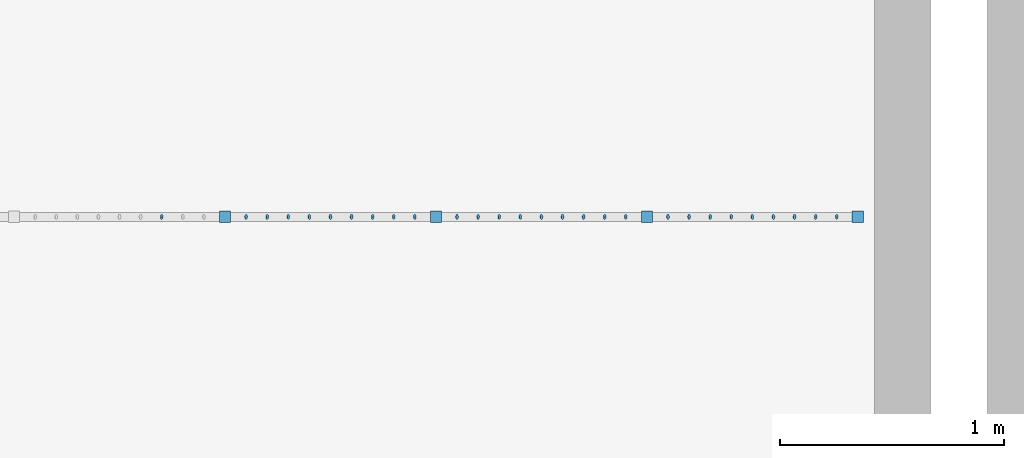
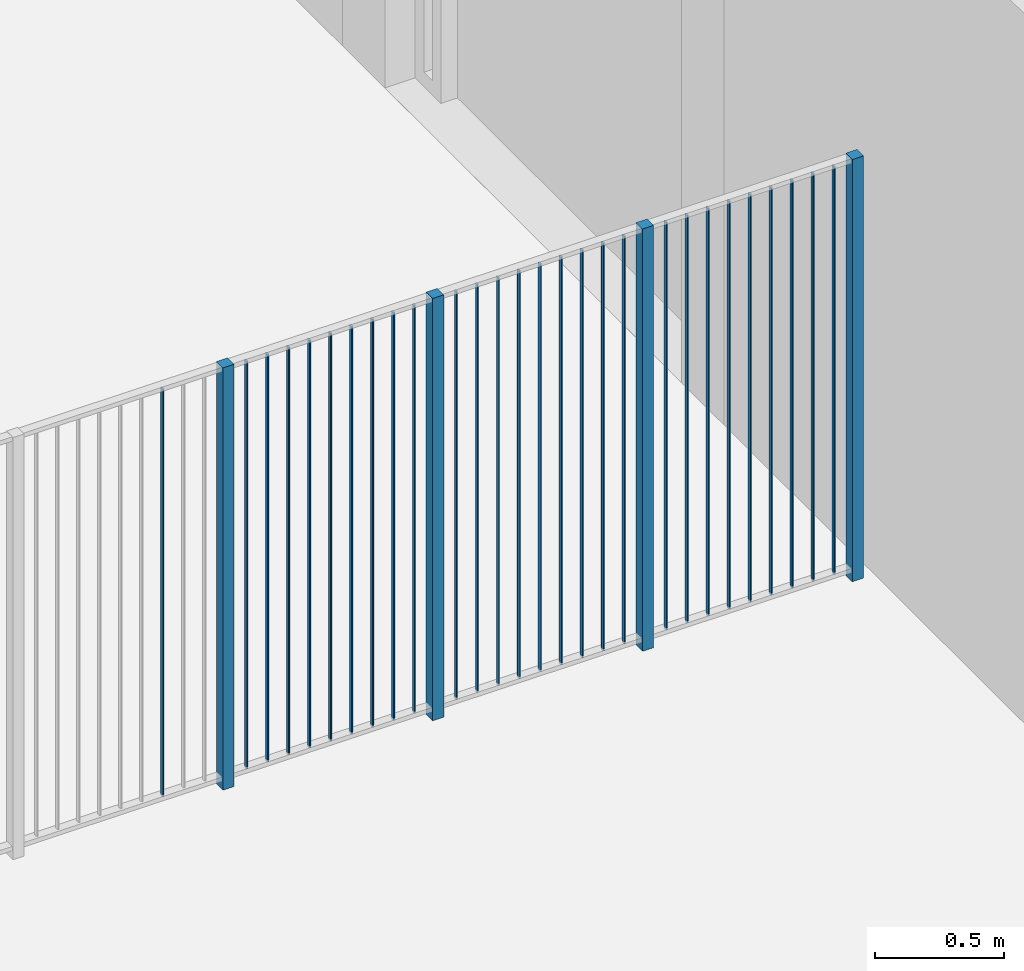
# One storey, part 3 of 135: 32 members, 1 element without a shape of its own.
"""IFC2X3 building model written with IfcOpenShell, lengths in millimetres."""

from ifc_helpers import new_model, entity, si_unit, converted_unit, derived_unit, money_unit, direction, frame, origin_with_axes, place, context, subcontext, project, spatial, faceted_brep, source, transform, mapped, material, type_object, type_shapes, element, aggregate, save


model = new_model("IFC2X3")

# Units and contexts
model_context = context("Model", 3, precision=0.01, world=origin_with_axes(), true_north=direction((0.0, 1.0)))
body_context = subcontext(model_context, "Body", "Model", "MODEL_VIEW")
ifc_project = project(units=[si_unit("LENGTHUNIT", "METRE", prefix="MILLI"), si_unit("AREAUNIT", "SQUARE_METRE"), si_unit("VOLUMEUNIT", "CUBIC_METRE"), converted_unit("PLANEANGLEUNIT", "DEGREE", entity("IfcPlaneAngleMeasure", 0.0174532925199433), si_unit("PLANEANGLEUNIT", "RADIAN"), dimensions=[0, 0, 0, 0, 0, 0, 0]), money_unit("EUR"), converted_unit("TIMEUNIT", "Year", entity("IfcTimeMeasure", 31557600.0), si_unit("TIMEUNIT", "SECOND"), dimensions=[0, 0, 1, 0, 0, 0, 0]), si_unit("MASSUNIT", "GRAM", prefix="KILO"), si_unit("THERMODYNAMICTEMPERATUREUNIT", "DEGREE_CELSIUS"), si_unit("LUMINOUSINTENSITYUNIT", "LUMEN"), si_unit("ENERGYUNIT", "JOULE", prefix="MEGA"), derived_unit("THERMALCONDUCTANCEUNIT", [(si_unit("POWERUNIT", "WATT"), 1), (si_unit("LENGTHUNIT", "METRE"), -1), (si_unit("THERMODYNAMICTEMPERATUREUNIT", "KELVIN"), -1)]), derived_unit("SPECIFICHEATCAPACITYUNIT", [(si_unit("ENERGYUNIT", "JOULE"), 1), (si_unit("MASSUNIT", "GRAM", prefix="KILO"), -1), (si_unit("THERMODYNAMICTEMPERATUREUNIT", "KELVIN"), -1)]), derived_unit("MASSDENSITYUNIT", [(si_unit("MASSUNIT", "GRAM", prefix="KILO"), 1), (si_unit("VOLUMEUNIT", "CUBIC_METRE"), -1)])], contexts=[model_context])

# Site, building, storey
site_placement = place(None, origin_with_axes())
site = spatial("IfcSite", under=ifc_project, at=site_placement, Name="Site", CompositionType="ELEMENT")
building_placement = place(site_placement, origin_with_axes())
building = spatial("IfcBuilding", under=site, at=building_placement, Name="Naam gebouw", CompositionType="ELEMENT")
storey_placement = place(building_placement, origin_with_axes())
storey = spatial("IfcBuildingStorey", under=building, at=storey_placement, Name="Begane grond N", CompositionType="ELEMENT", Elevation=0.0)

# Railing, members
railing_type = type_object("IfcRailingType", Name="Railing Type", PredefinedType="NOTDEFINED")
railing_placement = place(storey_placement, frame((-9250.67106541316, 12765.57502437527, 0.0), z_axis=(0.0, 0.0, 1.0), x_axis=(1.0, 0.0, 0.0)))
railing = element("IfcRailing", 1, at=railing_placement, inside=storey, type_object=railing_type, Name="_Reling-x", PredefinedType="NOTDEFINED")
ifc_material = material(Name="Metaal - Staal C")
member_type_1 = type_object("IfcMemberType", Name="IfcMember", PredefinedType="POST")
shared_shape_1 = source(origin_with_axes(), body_context, "Body", "Brep", [
    faceted_brep([(25.0, 25.0, 0.0), (-25.0, 25.0, 0.0), (-25.00000000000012, 25.0, 2000.0), (24.99999999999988, 25.0, 2000.0), (25.0, -25.0, 0.0), (-25.0, -25.0, 0.0), (-25.00000000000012, -25.0, 2000.0), (24.99999999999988, -25.0, 2000.0)], [[[0, 1, 2, 3]], [[0, 4, 5, 1]], [[1, 5, 6, 2]], [[3, 2, 6, 7]], [[4, 0, 3, 7]], [[5, 4, 7, 6]]]),
])
member_1_placement = place(railing_placement, frame((7575.671066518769, -25.00000000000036, 0.0), z_axis=(0.0, 0.0, 1.0), x_axis=(1.0, 0.0, 0.0)))
member_1 = element("IfcMember", 2, at=member_1_placement, type_object=member_type_1, material=ifc_material, Name="_Hoofdbaluster-x", ObjectType="POST", context=body_context, shape_type="MappedRepresentation", body=[
    mapped(shared_shape_1, transform((0.0, 0.0, 0.0), x_axis=(0.0, -1.0, 0.0), y_axis=(1.0, 0.0, 0.0), z_axis=(0.0, 0.0, 1.0))),
])
member_type_2 = type_object("IfcMemberType", Name="IfcMember", PredefinedType="MEMBER")
shared_shape_2 = source(origin_with_axes(), body_context, "Body", "Brep", [
    faceted_brep([(0.0, -5.0, 0.0), (1.736481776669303, -4.92403876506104, 0.0), (1.736481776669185, -4.92403876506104, 1930.0), (0.0, -5.0, 1930.0), (-1.736481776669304, -4.92403876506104, 0.0), (-3.420201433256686, -4.698463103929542, 0.0), (-5.000000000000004, -4.330127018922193, 0.0), (-6.427876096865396, -3.830222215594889, 0.0), (-7.660444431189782, -3.213938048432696, 0.0), (-8.660254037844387, -2.5, 0.0), (-9.396926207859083, -1.710100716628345, 0.0), (-9.848077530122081, -0.86824088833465, 0.0), (-10.0, 0.0, 0.0), (-9.84807753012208, 0.8682408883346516, 0.0), (-9.396926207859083, 1.710100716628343, 0.0), (-8.660254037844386, 2.500000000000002, 0.0), (-7.660444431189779, 3.213938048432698, 0.0), (-6.427876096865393, 3.83022221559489, 0.0), (-5.000000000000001, 4.330127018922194, 0.0), (-3.420201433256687, 4.698463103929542, 0.0), (-1.736481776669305, 4.92403876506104, 0.0), (0.0, 5.0, 0.0), (1.736481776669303, 4.92403876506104, 0.0), (3.420201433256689, 4.698463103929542, 0.0), (4.999999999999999, 4.330127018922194, 0.0), (6.427876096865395, 3.83022221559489, 0.0), (7.660444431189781, 3.213938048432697, 0.0), (8.660254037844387, 2.499999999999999, 0.0), (9.396926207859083, 1.710100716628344, 0.0), (9.84807753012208, 0.8682408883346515, 0.0), (10.0, 0.0, 0.0), (9.84807753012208, -0.8682408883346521, 0.0), (9.396926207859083, -1.710100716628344, 0.0), (8.660254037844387, -2.5, 0.0), (7.660444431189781, -3.213938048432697, 0.0), (6.427876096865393, -3.83022221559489, 0.0), (4.999999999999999, -4.330127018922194, 0.0), (3.420201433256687, -4.698463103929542, 0.0), (3.420201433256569, -4.698463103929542, 1930.0), (4.999999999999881, -4.330127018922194, 1930.0), (6.427876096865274, -3.83022221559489, 1930.0), (7.660444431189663, -3.213938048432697, 1930.0), (8.660254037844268, -2.5, 1930.0), (9.396926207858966, -1.710100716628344, 1930.0), (9.848077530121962, -0.8682408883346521, 1930.0), (9.999999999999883, 0.0, 1930.0), (9.848077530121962, 0.8682408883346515, 1930.0), (9.396926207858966, 1.710100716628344, 1930.0), (8.660254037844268, 2.499999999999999, 1930.0), (7.660444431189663, 3.213938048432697, 1930.0), (6.427876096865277, 3.83022221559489, 1930.0), (4.999999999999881, 4.330127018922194, 1930.0), (3.42020143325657, 4.698463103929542, 1930.0), (1.736481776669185, 4.92403876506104, 1930.0), (0.0, 5.0, 1930.0), (-1.736481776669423, 4.92403876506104, 1930.0), (-3.420201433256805, 4.698463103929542, 1930.0), (-5.000000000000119, 4.330127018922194, 1930.0), (-6.427876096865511, 3.83022221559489, 1930.0), (-7.660444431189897, 3.213938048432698, 1930.0), (-8.660254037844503, 2.500000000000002, 1930.0), (-9.396926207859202, 1.710100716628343, 1930.0), (-9.848077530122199, 0.8682408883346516, 1930.0), (-10.00000000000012, 0.0, 1930.0), (-9.8480775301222, -0.86824088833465, 1930.0), (-9.396926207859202, -1.710100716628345, 1930.0), (-8.660254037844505, -2.5, 1930.0), (-7.6604444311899, -3.213938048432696, 1930.0), (-6.427876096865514, -3.830222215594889, 1930.0), (-5.000000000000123, -4.330127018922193, 1930.0), (-3.420201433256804, -4.698463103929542, 1930.0), (-1.736481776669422, -4.92403876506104, 1930.0)], [[[0, 1, 2, 3]], [[0, 4, 5, 6, 7, 8, 9, 10, 11, 12, 13, 14, 15, 16, 17, 18, 19, 20, 21, 22, 23, 24, 25, 26, 27, 28, 29, 30, 31, 32, 33, 34, 35, 36, 37, 1]], [[1, 37, 38, 2]], [[3, 2, 38, 39, 40, 41, 42, 43, 44, 45, 46, 47, 48, 49, 50, 51, 52, 53, 54, 55, 56, 57, 58, 59, 60, 61, 62, 63, 64, 65, 66, 67, 68, 69, 70, 71]], [[4, 0, 3, 71]], [[5, 4, 71, 70]], [[6, 5, 70, 69]], [[7, 6, 69, 68]], [[8, 7, 68, 67]], [[9, 8, 67, 66]], [[10, 9, 66, 65]], [[11, 10, 65, 64]], [[12, 11, 64, 63]], [[13, 12, 63, 62]], [[14, 13, 62, 61]], [[15, 14, 61, 60]], [[16, 15, 60, 59]], [[17, 16, 59, 58]], [[18, 17, 58, 57]], [[19, 18, 57, 56]], [[20, 19, 56, 55]], [[21, 20, 55, 54]], [[22, 21, 54, 53]], [[23, 22, 53, 52]], [[24, 23, 52, 51]], [[25, 24, 51, 50]], [[26, 25, 50, 49]], [[27, 26, 49, 48]], [[28, 27, 48, 47]], [[29, 28, 47, 46]], [[30, 29, 46, 45]], [[31, 30, 45, 44]], [[32, 31, 44, 43]], [[33, 32, 43, 42]], [[34, 33, 42, 41]], [[35, 34, 41, 40]], [[36, 35, 40, 39]], [[37, 36, 39, 38]]]),
])
type_shapes(member_type_2, [shared_shape_2])
member_2_placement = place(railing_placement, frame((4474.133075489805, -25.00000000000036, 50.0), z_axis=(0.0, 0.0, 1.0), x_axis=(1.0, 0.0, 0.0)))
member_2 = element("IfcMember", 3, at=member_2_placement, type_object=member_type_2, material=ifc_material, Name="_Spijlen-x", ObjectType="MEMBER", context=body_context, shape_type="MappedRepresentation", body=[
    mapped(shared_shape_2, transform((0.0, 0.0, 0.0), x_axis=(0.0, -1.0, 0.0), y_axis=(1.0, 0.0, 0.0), z_axis=(0.0, 0.0, 1.0))),
])
member_3_placement = place(railing_placement, frame((4850.077074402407, -25.00000000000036, 50.0), z_axis=(0.0, 0.0, 1.0), x_axis=(1.0, 0.0, 0.0)))
member_3 = element("IfcMember", 4, at=member_3_placement, type_object=member_type_2, material=ifc_material, Name="_Spijlen-x", ObjectType="MEMBER", context=body_context, shape_type="MappedRepresentation", body=[
    mapped(shared_shape_2, transform((0.0, 0.0, 0.0), x_axis=(0.0, -1.0, 0.0), y_axis=(1.0, 0.0, 0.0), z_axis=(0.0, 0.0, 1.0))),
])
member_4_placement = place(railing_placement, frame((5132.035073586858, -25.00000000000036, 50.0), z_axis=(0.0, 0.0, 1.0), x_axis=(1.0, 0.0, 0.0)))
member_4 = element("IfcMember", 5, at=member_4_placement, type_object=member_type_2, material=ifc_material, Name="_Spijlen-x", ObjectType="MEMBER", context=body_context, shape_type="MappedRepresentation", body=[
    mapped(shared_shape_2, transform((0.0, 0.0, 0.0), x_axis=(0.0, -1.0, 0.0), y_axis=(1.0, 0.0, 0.0), z_axis=(0.0, 0.0, 1.0))),
])
member_5_placement = place(railing_placement, frame((5226.021073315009, -25.00000000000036, 50.0), z_axis=(0.0, 0.0, 1.0), x_axis=(1.0, 0.0, 0.0)))
member_5 = element("IfcMember", 6, at=member_5_placement, type_object=member_type_2, material=ifc_material, Name="_Spijlen-x", ObjectType="MEMBER", context=body_context, shape_type="MappedRepresentation", body=[
    mapped(shared_shape_2, transform((0.0, 0.0, 0.0), x_axis=(0.0, -1.0, 0.0), y_axis=(1.0, 0.0, 0.0), z_axis=(0.0, 0.0, 1.0))),
])
member_6_placement = place(railing_placement, frame((5320.007073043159, -25.00000000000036, 50.0), z_axis=(0.0, 0.0, 1.0), x_axis=(1.0, 0.0, 0.0)))
member_6 = element("IfcMember", 7, at=member_6_placement, type_object=member_type_2, material=ifc_material, Name="_Spijlen-x", ObjectType="MEMBER", context=body_context, shape_type="MappedRepresentation", body=[
    mapped(shared_shape_2, transform((0.0, 0.0, 0.0), x_axis=(0.0, -1.0, 0.0), y_axis=(1.0, 0.0, 0.0), z_axis=(0.0, 0.0, 1.0))),
])
member_7_placement = place(railing_placement, frame((5413.99307277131, -25.00000000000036, 50.0), z_axis=(0.0, 0.0, 1.0), x_axis=(1.0, 0.0, 0.0)))
member_7 = element("IfcMember", 8, at=member_7_placement, type_object=member_type_2, material=ifc_material, Name="_Spijlen-x", ObjectType="MEMBER", context=body_context, shape_type="MappedRepresentation", body=[
    mapped(shared_shape_2, transform((0.0, 0.0, 0.0), x_axis=(0.0, -1.0, 0.0), y_axis=(1.0, 0.0, 0.0), z_axis=(0.0, 0.0, 1.0))),
])
member_8_placement = place(railing_placement, frame((5507.979072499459, -25.00000000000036, 50.0), z_axis=(0.0, 0.0, 1.0), x_axis=(1.0, 0.0, 0.0)))
member_8 = element("IfcMember", 9, at=member_8_placement, type_object=member_type_2, material=ifc_material, Name="_Spijlen-x", ObjectType="MEMBER", context=body_context, shape_type="MappedRepresentation", body=[
    mapped(shared_shape_2, transform((0.0, 0.0, 0.0), x_axis=(0.0, -1.0, 0.0), y_axis=(1.0, 0.0, 0.0), z_axis=(0.0, 0.0, 1.0))),
])
member_9_placement = place(railing_placement, frame((5601.96507222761, -25.00000000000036, 50.0), z_axis=(0.0, 0.0, 1.0), x_axis=(1.0, 0.0, 0.0)))
member_9 = element("IfcMember", 10, at=member_9_placement, type_object=member_type_2, material=ifc_material, Name="_Spijlen-x", ObjectType="MEMBER", context=body_context, shape_type="MappedRepresentation", body=[
    mapped(shared_shape_2, transform((0.0, 0.0, 0.0), x_axis=(0.0, -1.0, 0.0), y_axis=(1.0, 0.0, 0.0), z_axis=(0.0, 0.0, 1.0))),
])
member_10_placement = place(railing_placement, frame((5789.93707168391, -25.00000000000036, 50.0), z_axis=(0.0, 0.0, 1.0), x_axis=(1.0, 0.0, 0.0)))
member_10 = element("IfcMember", 11, at=member_10_placement, type_object=member_type_2, material=ifc_material, Name="_Spijlen-x", ObjectType="MEMBER", context=body_context, shape_type="MappedRepresentation", body=[
    mapped(shared_shape_2, transform((0.0, 0.0, 0.0), x_axis=(0.0, -1.0, 0.0), y_axis=(1.0, 0.0, 0.0), z_axis=(0.0, 0.0, 1.0))),
])
member_11_placement = place(railing_placement, frame((5977.909071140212, -25.00000000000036, 50.0), z_axis=(0.0, 0.0, 1.0), x_axis=(1.0, 0.0, 0.0)))
member_11 = element("IfcMember", 12, at=member_11_placement, type_object=member_type_2, material=ifc_material, Name="_Spijlen-x", ObjectType="MEMBER", context=body_context, shape_type="MappedRepresentation", body=[
    mapped(shared_shape_2, transform((0.0, 0.0, 0.0), x_axis=(0.0, -1.0, 0.0), y_axis=(1.0, 0.0, 0.0), z_axis=(0.0, 0.0, 1.0))),
])
member_12_placement = place(railing_placement, frame((6071.895070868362, -25.00000000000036, 50.0), z_axis=(0.0, 0.0, 1.0), x_axis=(1.0, 0.0, 0.0)))
member_12 = element("IfcMember", 13, at=member_12_placement, type_object=member_type_2, material=ifc_material, Name="_Spijlen-x", ObjectType="MEMBER", context=body_context, shape_type="MappedRepresentation", body=[
    mapped(shared_shape_2, transform((0.0, 0.0, 0.0), x_axis=(0.0, -1.0, 0.0), y_axis=(1.0, 0.0, 0.0), z_axis=(0.0, 0.0, 1.0))),
])
member_13_placement = place(railing_placement, frame((6165.881070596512, -25.00000000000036, 50.0), z_axis=(0.0, 0.0, 1.0), x_axis=(1.0, 0.0, 0.0)))
member_13 = element("IfcMember", 14, at=member_13_placement, type_object=member_type_2, material=ifc_material, Name="_Spijlen-x", ObjectType="MEMBER", context=body_context, shape_type="MappedRepresentation", body=[
    mapped(shared_shape_2, transform((0.0, 0.0, 0.0), x_axis=(0.0, -1.0, 0.0), y_axis=(1.0, 0.0, 0.0), z_axis=(0.0, 0.0, 1.0))),
])
member_14_placement = place(railing_placement, frame((6259.867070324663, -25.00000000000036, 50.0), z_axis=(0.0, 0.0, 1.0), x_axis=(1.0, 0.0, 0.0)))
member_14 = element("IfcMember", 15, at=member_14_placement, type_object=member_type_2, material=ifc_material, Name="_Spijlen-x", ObjectType="MEMBER", context=body_context, shape_type="MappedRepresentation", body=[
    mapped(shared_shape_2, transform((0.0, 0.0, 0.0), x_axis=(0.0, -1.0, 0.0), y_axis=(1.0, 0.0, 0.0), z_axis=(0.0, 0.0, 1.0))),
])
member_15_placement = place(railing_placement, frame((5883.923071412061, -25.00000000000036, 50.0), z_axis=(0.0, 0.0, 1.0), x_axis=(1.0, 0.0, 0.0)))
member_15 = element("IfcMember", 16, at=member_15_placement, type_object=member_type_2, material=ifc_material, Name="_Spijlen-x", ObjectType="MEMBER", context=body_context, shape_type="MappedRepresentation", body=[
    mapped(shared_shape_2, transform((0.0, 0.0, 0.0), x_axis=(0.0, -1.0, 0.0), y_axis=(1.0, 0.0, 0.0), z_axis=(0.0, 0.0, 1.0))),
])
member_16_placement = place(railing_placement, frame((6353.853070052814, -25.00000000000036, 50.0), z_axis=(0.0, 0.0, 1.0), x_axis=(1.0, 0.0, 0.0)))
member_16 = element("IfcMember", 17, at=member_16_placement, type_object=member_type_2, material=ifc_material, Name="_Spijlen-x", ObjectType="MEMBER", context=body_context, shape_type="MappedRepresentation", body=[
    mapped(shared_shape_2, transform((0.0, 0.0, 0.0), x_axis=(0.0, -1.0, 0.0), y_axis=(1.0, 0.0, 0.0), z_axis=(0.0, 0.0, 1.0))),
])
member_17_placement = place(railing_placement, frame((6541.825069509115, -25.00000000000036, 50.0), z_axis=(0.0, 0.0, 1.0), x_axis=(1.0, 0.0, 0.0)))
member_17 = element("IfcMember", 18, at=member_17_placement, type_object=member_type_2, material=ifc_material, Name="_Spijlen-x", ObjectType="MEMBER", context=body_context, shape_type="MappedRepresentation", body=[
    mapped(shared_shape_2, transform((0.0, 0.0, 0.0), x_axis=(0.0, -1.0, 0.0), y_axis=(1.0, 0.0, 0.0), z_axis=(0.0, 0.0, 1.0))),
])
member_18_placement = place(railing_placement, frame((6447.839069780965, -25.00000000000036, 50.0), z_axis=(0.0, 0.0, 1.0), x_axis=(1.0, 0.0, 0.0)))
member_18 = element("IfcMember", 19, at=member_18_placement, type_object=member_type_2, material=ifc_material, Name="_Spijlen-x", ObjectType="MEMBER", context=body_context, shape_type="MappedRepresentation", body=[
    mapped(shared_shape_2, transform((0.0, 0.0, 0.0), x_axis=(0.0, -1.0, 0.0), y_axis=(1.0, 0.0, 0.0), z_axis=(0.0, 0.0, 1.0))),
])
member_19_placement = place(railing_placement, frame((6823.783068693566, -25.00000000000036, 50.0), z_axis=(0.0, 0.0, 1.0), x_axis=(1.0, 0.0, 0.0)))
member_19 = element("IfcMember", 20, at=member_19_placement, type_object=member_type_2, material=ifc_material, Name="_Spijlen-x", ObjectType="MEMBER", context=body_context, shape_type="MappedRepresentation", body=[
    mapped(shared_shape_2, transform((0.0, 0.0, 0.0), x_axis=(0.0, -1.0, 0.0), y_axis=(1.0, 0.0, 0.0), z_axis=(0.0, 0.0, 1.0))),
])
member_20_placement = place(railing_placement, frame((6729.797068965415, -25.00000000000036, 50.0), z_axis=(0.0, 0.0, 1.0), x_axis=(1.0, 0.0, 0.0)))
member_20 = element("IfcMember", 21, at=member_20_placement, type_object=member_type_2, material=ifc_material, Name="_Spijlen-x", ObjectType="MEMBER", context=body_context, shape_type="MappedRepresentation", body=[
    mapped(shared_shape_2, transform((0.0, 0.0, 0.0), x_axis=(0.0, -1.0, 0.0), y_axis=(1.0, 0.0, 0.0), z_axis=(0.0, 0.0, 1.0))),
])
member_21_placement = place(railing_placement, frame((6917.769068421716, -25.00000000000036, 50.0), z_axis=(0.0, 0.0, 1.0), x_axis=(1.0, 0.0, 0.0)))
member_21 = element("IfcMember", 22, at=member_21_placement, type_object=member_type_2, material=ifc_material, Name="_Spijlen-x", ObjectType="MEMBER", context=body_context, shape_type="MappedRepresentation", body=[
    mapped(shared_shape_2, transform((0.0, 0.0, 0.0), x_axis=(0.0, -1.0, 0.0), y_axis=(1.0, 0.0, 0.0), z_axis=(0.0, 0.0, 1.0))),
])
member_22_placement = place(railing_placement, frame((7011.755068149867, -25.00000000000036, 50.0), z_axis=(0.0, 0.0, 1.0), x_axis=(1.0, 0.0, 0.0)))
member_22 = element("IfcMember", 23, at=member_22_placement, type_object=member_type_2, material=ifc_material, Name="_Spijlen-x", ObjectType="MEMBER", context=body_context, shape_type="MappedRepresentation", body=[
    mapped(shared_shape_2, transform((0.0, 0.0, 0.0), x_axis=(0.0, -1.0, 0.0), y_axis=(1.0, 0.0, 0.0), z_axis=(0.0, 0.0, 1.0))),
])
member_23_placement = place(railing_placement, frame((7199.727067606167, -25.00000000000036, 50.0), z_axis=(0.0, 0.0, 1.0), x_axis=(1.0, 0.0, 0.0)))
member_23 = element("IfcMember", 24, at=member_23_placement, type_object=member_type_2, material=ifc_material, Name="_Spijlen-x", ObjectType="MEMBER", context=body_context, shape_type="MappedRepresentation", body=[
    mapped(shared_shape_2, transform((0.0, 0.0, 0.0), x_axis=(0.0, -1.0, 0.0), y_axis=(1.0, 0.0, 0.0), z_axis=(0.0, 0.0, 1.0))),
])
member_24_placement = place(railing_placement, frame((4944.063074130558, -25.00000000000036, 50.0), z_axis=(0.0, 0.0, 1.0), x_axis=(1.0, 0.0, 0.0)))
member_24 = element("IfcMember", 25, at=member_24_placement, type_object=member_type_2, material=ifc_material, Name="_Spijlen-x", ObjectType="MEMBER", context=body_context, shape_type="MappedRepresentation", body=[
    mapped(shared_shape_2, transform((0.0, 0.0, 0.0), x_axis=(0.0, -1.0, 0.0), y_axis=(1.0, 0.0, 0.0), z_axis=(0.0, 0.0, 1.0))),
])
member_25_placement = place(railing_placement, frame((7293.713067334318, -25.00000000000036, 50.0), z_axis=(0.0, 0.0, 1.0), x_axis=(1.0, 0.0, 0.0)))
member_25 = element("IfcMember", 26, at=member_25_placement, type_object=member_type_2, material=ifc_material, Name="_Spijlen-x", ObjectType="MEMBER", context=body_context, shape_type="MappedRepresentation", body=[
    mapped(shared_shape_2, transform((0.0, 0.0, 0.0), x_axis=(0.0, -1.0, 0.0), y_axis=(1.0, 0.0, 0.0), z_axis=(0.0, 0.0, 1.0))),
])
member_26_placement = place(railing_placement, frame((7105.741067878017, -25.00000000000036, 50.0), z_axis=(0.0, 0.0, 1.0), x_axis=(1.0, 0.0, 0.0)))
member_26 = element("IfcMember", 27, at=member_26_placement, type_object=member_type_2, material=ifc_material, Name="_Spijlen-x", ObjectType="MEMBER", context=body_context, shape_type="MappedRepresentation", body=[
    mapped(shared_shape_2, transform((0.0, 0.0, 0.0), x_axis=(0.0, -1.0, 0.0), y_axis=(1.0, 0.0, 0.0), z_axis=(0.0, 0.0, 1.0))),
])
member_27_placement = place(railing_placement, frame((7481.685066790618, -25.00000000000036, 50.0), z_axis=(0.0, 0.0, 1.0), x_axis=(1.0, 0.0, 0.0)))
member_27 = element("IfcMember", 28, at=member_27_placement, type_object=member_type_2, material=ifc_material, Name="_Spijlen-x", ObjectType="MEMBER", context=body_context, shape_type="MappedRepresentation", body=[
    mapped(shared_shape_2, transform((0.0, 0.0, 0.0), x_axis=(0.0, -1.0, 0.0), y_axis=(1.0, 0.0, 0.0), z_axis=(0.0, 0.0, 1.0))),
])
member_28_placement = place(railing_placement, frame((5038.049073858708, -25.00000000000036, 50.0), z_axis=(0.0, 0.0, 1.0), x_axis=(1.0, 0.0, 0.0)))
member_28 = element("IfcMember", 29, at=member_28_placement, type_object=member_type_2, material=ifc_material, Name="_Spijlen-x", ObjectType="MEMBER", context=body_context, shape_type="MappedRepresentation", body=[
    mapped(shared_shape_2, transform((0.0, 0.0, 0.0), x_axis=(0.0, -1.0, 0.0), y_axis=(1.0, 0.0, 0.0), z_axis=(0.0, 0.0, 1.0))),
])
member_29_placement = place(railing_placement, frame((7387.699067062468, -25.00000000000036, 50.0), z_axis=(0.0, 0.0, 1.0), x_axis=(1.0, 0.0, 0.0)))
member_29 = element("IfcMember", 30, at=member_29_placement, type_object=member_type_2, material=ifc_material, Name="_Spijlen-x", ObjectType="MEMBER", context=body_context, shape_type="MappedRepresentation", body=[
    mapped(shared_shape_2, transform((0.0, 0.0, 0.0), x_axis=(0.0, -1.0, 0.0), y_axis=(1.0, 0.0, 0.0), z_axis=(0.0, 0.0, 1.0))),
])
shared_shape_3 = source(origin_with_axes(), body_context, "Body", "Brep", [
    faceted_brep([(25.0, 25.0, 0.0), (-25.0, 25.0, 0.0), (-25.00000000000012, 25.0, 2000.0), (24.99999999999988, 25.0, 2000.0), (25.0, -25.0, 0.0), (-25.0, -25.0, 0.0), (-25.00000000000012, -25.0, 2000.0), (24.99999999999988, -25.0, 2000.0)], [[[0, 1, 2, 3]], [[0, 4, 5, 1]], [[1, 5, 6, 2]], [[3, 2, 6, 7]], [[4, 0, 3, 7]], [[5, 4, 7, 6]]]),
])
type_shapes(member_type_1, [shared_shape_1, shared_shape_3])
member_30_placement = place(railing_placement, frame((4756.091074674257, -25.00000000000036, 0.0), z_axis=(0.0, 0.0, 1.0), x_axis=(1.0, 0.0, 0.0)))
member_30 = element("IfcMember", 31, at=member_30_placement, type_object=member_type_1, material=ifc_material, Name="_Baluster-x", ObjectType="POST", context=body_context, shape_type="MappedRepresentation", body=[
    mapped(shared_shape_3, transform((0.0, 0.0, 0.0), x_axis=(0.0, -1.0, 0.0), y_axis=(1.0, 0.0, 0.0), z_axis=(0.0, 0.0, 1.0))),
])
member_31_placement = place(railing_placement, frame((5695.95107195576, -25.00000000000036, 0.0), z_axis=(0.0, 0.0, 1.0), x_axis=(1.0, 0.0, 0.0)))
member_31 = element("IfcMember", 32, at=member_31_placement, type_object=member_type_1, material=ifc_material, Name="_Baluster-x", ObjectType="POST", context=body_context, shape_type="MappedRepresentation", body=[
    mapped(shared_shape_3, transform((0.0, 0.0, 0.0), x_axis=(0.0, -1.0, 0.0), y_axis=(1.0, 0.0, 0.0), z_axis=(0.0, 0.0, 1.0))),
])
member_32_placement = place(railing_placement, frame((6635.811069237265, -25.00000000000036, 0.0), z_axis=(0.0, 0.0, 1.0), x_axis=(1.0, 0.0, 0.0)))
member_32 = element("IfcMember", 33, at=member_32_placement, type_object=member_type_1, material=ifc_material, Name="_Baluster-x", ObjectType="POST", context=body_context, shape_type="MappedRepresentation", body=[
    mapped(shared_shape_3, transform((0.0, 0.0, 0.0), x_axis=(0.0, -1.0, 0.0), y_axis=(1.0, 0.0, 0.0), z_axis=(0.0, 0.0, 1.0))),
])
aggregate(railing, [member_1, member_2, member_3, member_4, member_5, member_6, member_30, member_7, member_8, member_9, member_31, member_10, member_11, member_12, member_13, member_14, member_15, member_16, member_17, member_18, member_32, member_19, member_20, member_21, member_22, member_23, member_24, member_25, member_26, member_27, member_28, member_29])

save(model, "model.ifc")
